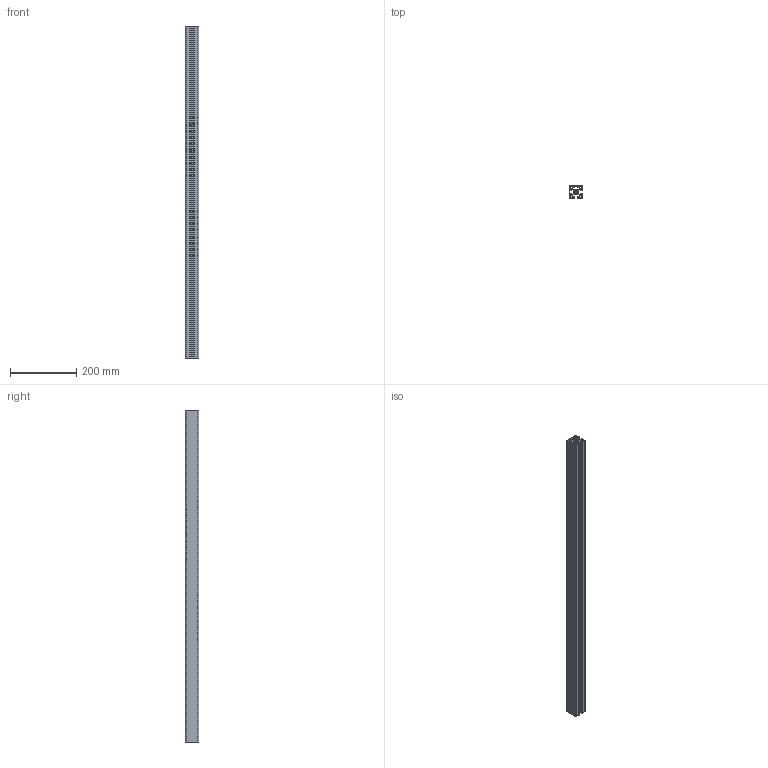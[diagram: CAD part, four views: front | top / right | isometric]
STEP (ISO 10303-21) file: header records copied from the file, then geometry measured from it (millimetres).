
FILE_DESCRIPTION (( 'STEP AP203' ), '1' );
FILE_NAME ('40 x 40 2K SÝGMA PRF.STEP', '2016-04-13T13:33:05', ( '' ), ( '' ), 'SwSTEP 2.0', 'SolidWorks 2016', '' );
FILE_SCHEMA (( 'CONFIG_CONTROL_DESIGN' ));
Length unit declared in the file: millimetre
Products named in the file (1): 40 x 40 2K SÝGMA PRF
Bounding box: 40 x 40 x 1000 mm (x, y, z)
Volume: 461882 mm3; surface area: 584108.9 mm2
Topology: 1 solids, 1 shells, 242 faces, 720 edges, 480 vertices
Faces by surface type: cylinder 127, plane 115
Entity records: 8303 total; most frequent: DIRECTION 1460, CARTESIAN_POINT 1443, ORIENTED_EDGE 1440, EDGE_CURVE 720, AXIS2_PLACEMENT_3D 497, VERTEX_POINT 480, LINE 466, VECTOR 466
